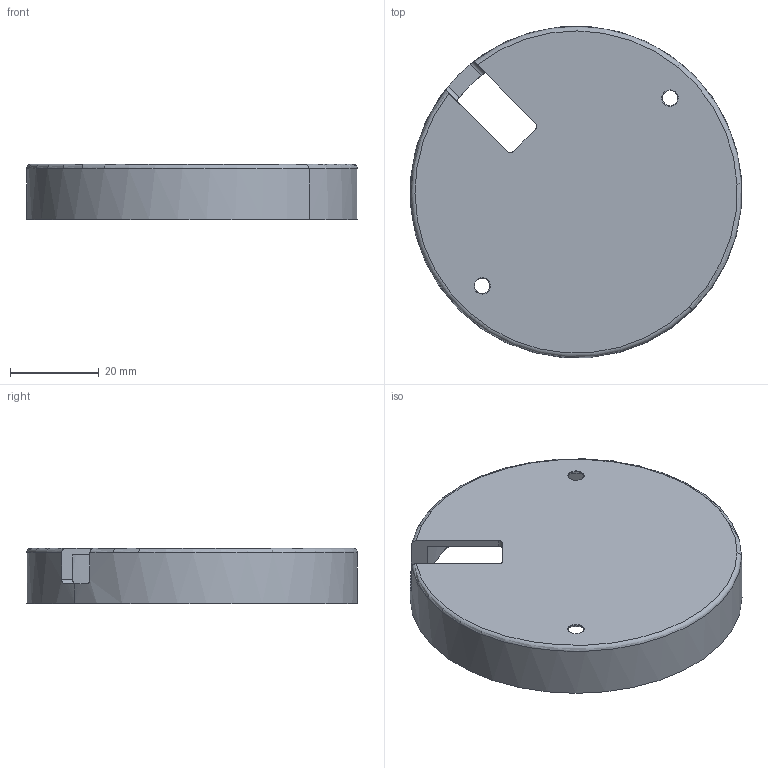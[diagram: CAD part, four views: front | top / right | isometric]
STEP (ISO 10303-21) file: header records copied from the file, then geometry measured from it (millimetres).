
FILE_DESCRIPTION (( 'STEP AP203' ), '1' );
FILE_NAME ('Gehaeuse_IrisLite_68_24.STEP', '2024-12-02T04:50:13', ( '' ), ( '' ), 'SwSTEP 2.0', 'SolidWorks 2023', '' );
FILE_SCHEMA (( 'CONFIG_CONTROL_DESIGN' ));
Length unit declared in the file: millimetre
Products named in the file (1): Gehaeuse_IrisLite_68_24
Bounding box: 74.76 x 74.76 x 12.5 mm (x, y, z)
Volume: 14479.9 mm3; surface area: 13494.1 mm2
Topology: 1 solids, 1 shells, 31 faces, 86 edges, 56 vertices
Faces by surface type: torus 10, cone 10, plane 7, cylinder 4
Entity records: 1139 total; most frequent: CARTESIAN_POINT 216, DIRECTION 196, ORIENTED_EDGE 172, EDGE_CURVE 86, AXIS2_PLACEMENT_3D 84, VERTEX_POINT 56, CIRCLE 52, EDGE_LOOP 36
